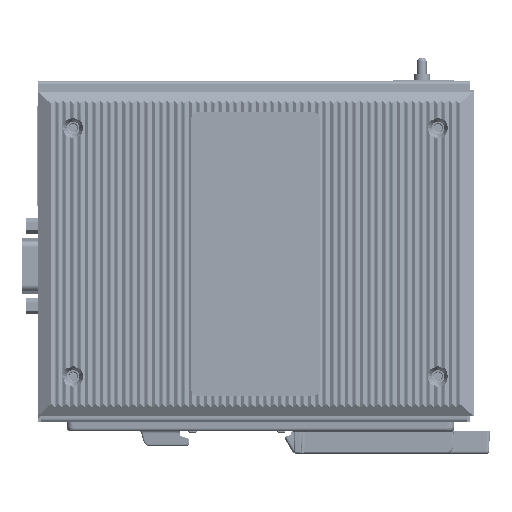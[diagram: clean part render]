
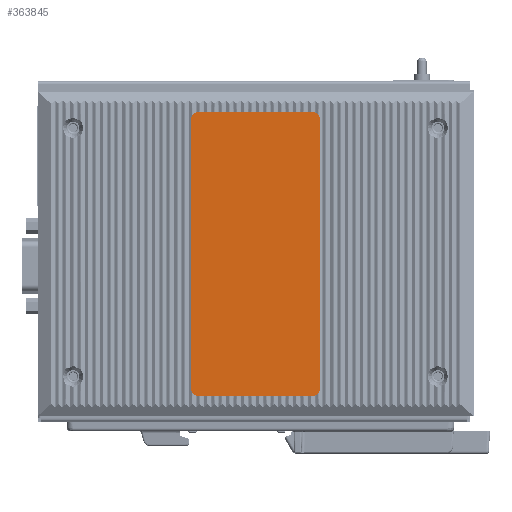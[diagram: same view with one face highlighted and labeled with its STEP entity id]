
A CAD part, front view. The second image highlights one B-rep face of the part: STEP entity #363845.
In plain terms, the highlighted planar face has unit normal (0, -1, 0).
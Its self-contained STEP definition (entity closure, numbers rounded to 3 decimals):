
#357574=DIRECTION('',(0.,0.,-1.));
#357575=VECTOR('',#357574,83.);
#357576=CARTESIAN_POINT('',(23.,-11.44,38.25));
#357577=LINE('',#357576,#357575);
#357610=CARTESIAN_POINT('',(20.5,-11.44,-44.75));
#357611=DIRECTION('',(0.,-1.,0.));
#357612=DIRECTION('',(0.,0.,-1.));
#357613=AXIS2_PLACEMENT_3D('',#357610,#357611,#357612);
#357615=DIRECTION('',(1.,0.,0.));
#357616=VECTOR('',#357615,34.95);
#357617=CARTESIAN_POINT('',(-14.45,-11.44,-47.25));
#357618=LINE('',#357617,#357616);
#357619=CARTESIAN_POINT('',(-14.45,-11.44,-44.7));
#357620=DIRECTION('',(0.,-1.,0.));
#357621=DIRECTION('',(-1.,0.,0.));
#357622=AXIS2_PLACEMENT_3D('',#357619,#357620,#357621);
#357624=DIRECTION('',(0.,0.,-1.));
#357625=VECTOR('',#357624,82.95);
#357626=CARTESIAN_POINT('',(-17.,-11.44,38.25));
#357627=LINE('',#357626,#357625);
#357628=CARTESIAN_POINT('',(-14.5,-11.44,38.25));
#357629=DIRECTION('',(0.,-1.,0.));
#357630=DIRECTION('',(0.,0.,1.));
#357631=AXIS2_PLACEMENT_3D('',#357628,#357629,#357630);
#357633=DIRECTION('',(-1.,0.,0.));
#357634=VECTOR('',#357633,35.);
#357635=CARTESIAN_POINT('',(20.5,-11.44,40.75));
#357636=LINE('',#357635,#357634);
#357637=CARTESIAN_POINT('',(20.5,-11.44,38.25));
#357638=DIRECTION('',(0.,-1.,0.));
#357639=DIRECTION('',(1.,0.,0.));
#357640=AXIS2_PLACEMENT_3D('',#357637,#357638,#357639);
#358576=CARTESIAN_POINT('',(-14.45,-11.44,-47.25));
#358577=VERTEX_POINT('',#358576);
#358579=CARTESIAN_POINT('',(-14.5,-11.44,40.75));
#358580=VERTEX_POINT('',#358579);
#358628=CARTESIAN_POINT('',(20.5,-11.44,-47.25));
#358629=VERTEX_POINT('',#358628);
#358641=CARTESIAN_POINT('',(20.5,-11.44,40.75));
#358642=VERTEX_POINT('',#358641);
#358689=CARTESIAN_POINT('',(-17.,-11.44,-44.7));
#358690=VERTEX_POINT('',#358689);
#358700=CARTESIAN_POINT('',(-17.,-11.44,38.25));
#358701=VERTEX_POINT('',#358700);
#358731=CARTESIAN_POINT('',(23.,-11.44,-44.75));
#358732=VERTEX_POINT('',#358731);
#358747=CARTESIAN_POINT('',(23.,-11.44,38.25));
#358748=VERTEX_POINT('',#358747);
#363830=CARTESIAN_POINT('',(3.,-11.44,-3.25));
#363831=DIRECTION('',(0.,-1.,0.));
#363832=DIRECTION('',(-1.,0.,0.));
#363833=AXIS2_PLACEMENT_3D('',#363830,#363831,#363832);
#363834=PLANE('',#363833);
#363835=ORIENTED_EDGE('',*,*,#363808,.T.);
#363836=ORIENTED_EDGE('',*,*,#363823,.F.);
#363837=ORIENTED_EDGE('',*,*,#363414,.F.);
#363838=ORIENTED_EDGE('',*,*,#363664,.F.);
#363839=ORIENTED_EDGE('',*,*,#363682,.F.);
#363840=ORIENTED_EDGE('',*,*,#363700,.F.);
#363841=ORIENTED_EDGE('',*,*,#363776,.F.);
#363842=ORIENTED_EDGE('',*,*,#363792,.F.);
#363843=EDGE_LOOP('',(#363835,#363836,#363837,#363838,#363839,#363840,#363841,
#363842));
#363844=FACE_OUTER_BOUND('',#363843,.F.);
#363845=ADVANCED_FACE('',(#363844),#363834,.T.);
#357614=CIRCLE('',#357613,2.5);
#357623=CIRCLE('',#357622,2.55);
#357632=CIRCLE('',#357631,2.5);
#357641=CIRCLE('',#357640,2.5);
#363414=EDGE_CURVE('',#358577,#358629,#357618,.T.);
#363664=EDGE_CURVE('',#358690,#358577,#357623,.T.);
#363682=EDGE_CURVE('',#358701,#358690,#357627,.T.);
#363700=EDGE_CURVE('',#358580,#358701,#357632,.T.);
#363776=EDGE_CURVE('',#358642,#358580,#357636,.T.);
#363792=EDGE_CURVE('',#358748,#358642,#357641,.T.);
#363808=EDGE_CURVE('',#358748,#358732,#357577,.T.);
#363823=EDGE_CURVE('',#358629,#358732,#357614,.T.);
